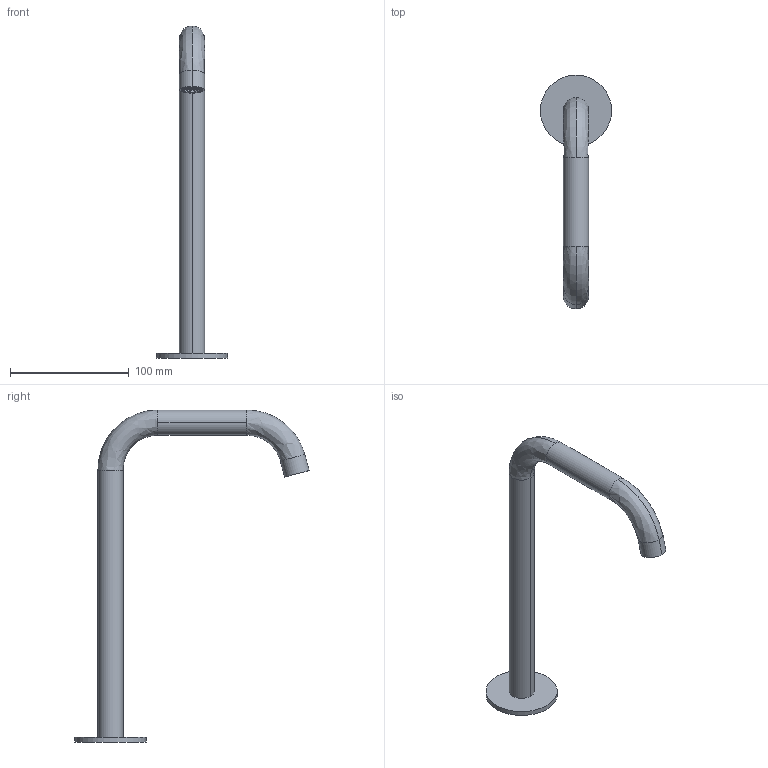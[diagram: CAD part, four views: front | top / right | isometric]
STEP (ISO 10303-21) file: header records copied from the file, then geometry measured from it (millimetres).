
FILE_DESCRIPTION(('STEP AP203'),'2;1');
FILE_NAME('DIS_3D_Z239.stp','2023-03-07T14:31:22',(''),(''),'2015.2.119','THINKDESIGN','');
FILE_SCHEMA(('CONFIG_CONTROL_DESIGN'));
Length unit declared in the file: millimetre
Bounding box: 60 x 197.55 x 280 mm (x, y, z)
Volume: 118503 mm3; surface area: 48436.4 mm2
Topology: 3 solids, 3 shells, 446 faces, 931 edges, 615 vertices
Faces by surface type: cylinder 267, plane 163, bspline 16
Full cylindrical faces by diameter (mm): 60 x1
Entity records: 12448 total; most frequent: DIRECTION 2383, CARTESIAN_POINT 2250, ORIENTED_EDGE 1858, AXIS2_PLACEMENT_3D 1024, EDGE_CURVE 929, VERTEX_POINT 615, CIRCLE 594, EDGE_LOOP 572
